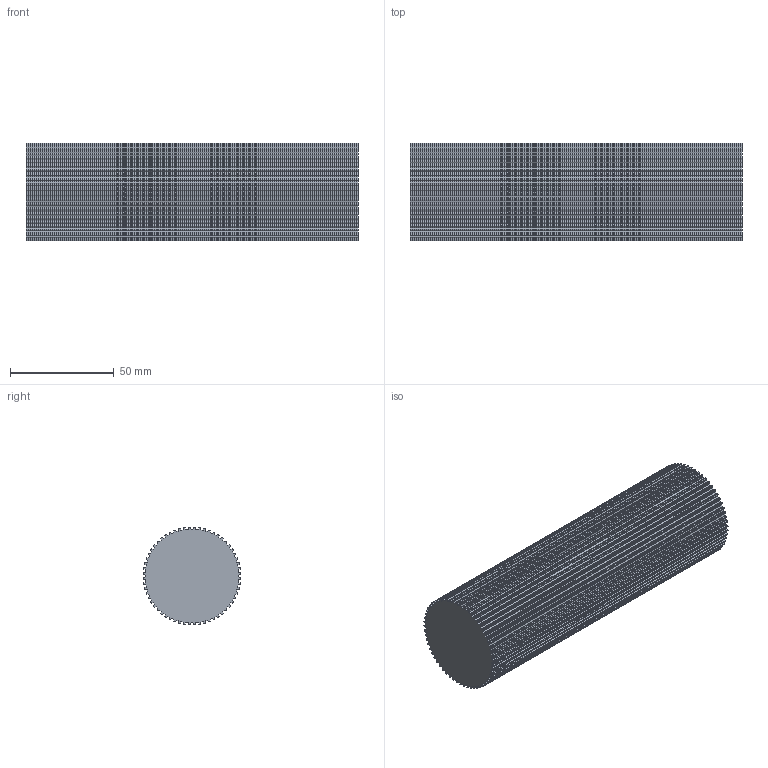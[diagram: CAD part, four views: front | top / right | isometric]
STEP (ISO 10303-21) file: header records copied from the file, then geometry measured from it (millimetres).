
FILE_DESCRIPTION( ( 'STEP AP214' ), '1' );
FILE_NAME( 'C:/Users/StangenbergN/Documents/CAD_Step/1/16096000.stp', '2019-07-25T19:42:37', ( '' ), ( '' ), ' ', 'PARTsolutions', ' ' );
FILE_SCHEMA( ( 'AUTOMOTIVE_DESIGN { 1 0 10303 214 1 1 1 1 }' ) );
Length unit declared in the file: millimetre
Products named in the file (1): _16096000
Bounding box: 160 x 47.2 x 47.2 mm (x, y, z)
Volume: 266353.4 mm3; surface area: 38437.4 mm2
Topology: 1 solids, 1 shells, 482 faces, 1440 edges, 960 vertices
Faces by surface type: cylinder 300, plane 182
Entity records: 20336 total; most frequent: DIRECTION 3006, CARTESIAN_POINT 2883, ORIENTED_EDGE 2880, EDGE_CURVE 1440, AXIS2_PLACEMENT_3D 1083, VERTEX_POINT 960, LINE 840, VECTOR 840
